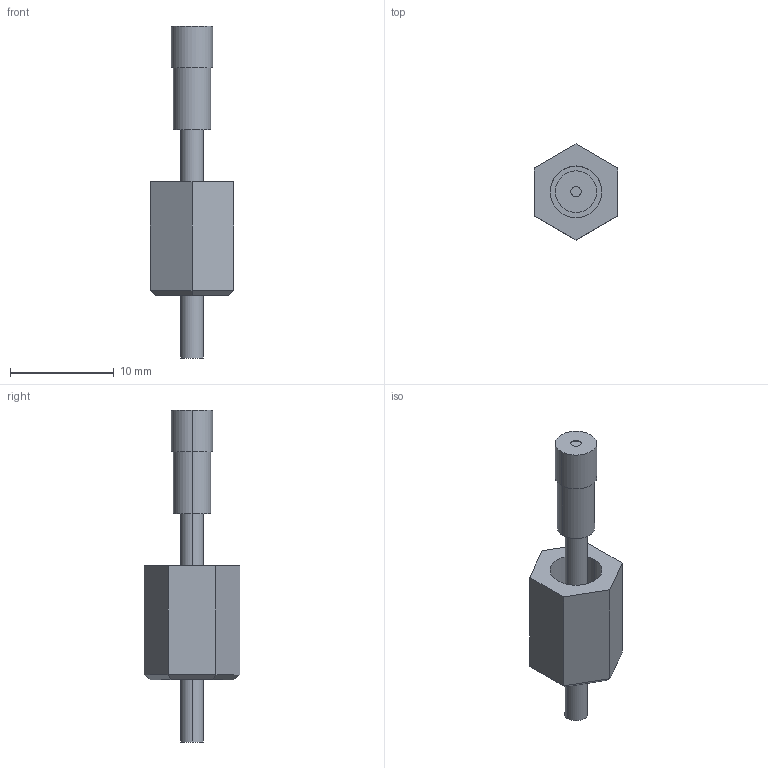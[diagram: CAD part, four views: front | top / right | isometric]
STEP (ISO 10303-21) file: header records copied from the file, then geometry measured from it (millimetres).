
FILE_DESCRIPTION (( 'STEP AP203' ), '1' );
FILE_NAME ('FT-J8.STEP', '2005-09-08T02:37:03', ( '' ), ( '' ), 'SwSTEP 2.0', 'SolidWorks 2004073', '' );
FILE_SCHEMA (( 'CONFIG_CONTROL_DESIGN' ));
Length unit declared in the file: millimetre
Products named in the file (1): FT-J8
Bounding box: 8 x 9.24 x 32 mm (x, y, z)
Volume: 642 mm3; surface area: 828.9 mm2
Topology: 2 solids, 2 shells, 32 faces, 66 edges, 42 vertices
Faces by surface type: plane 20, cylinder 12
Entity records: 925 total; most frequent: DIRECTION 156, CARTESIAN_POINT 141, ORIENTED_EDGE 132, EDGE_CURVE 66, AXIS2_PLACEMENT_3D 57, VECTOR 42, LINE 42, VERTEX_POINT 42
